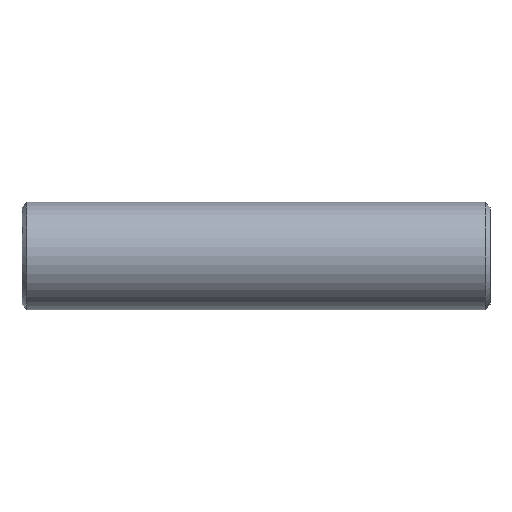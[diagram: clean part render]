
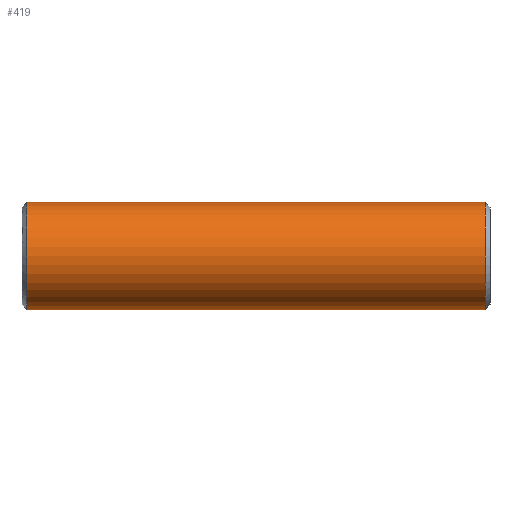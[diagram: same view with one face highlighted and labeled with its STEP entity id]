
A CAD part, front view. The second image highlights one B-rep face of the part: STEP entity #419.
In plain terms, the highlighted cylindrical face has radius 11 mm (diameter 22 mm), a partial arc.
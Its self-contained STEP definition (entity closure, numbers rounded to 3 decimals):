
#231=CARTESIAN_POINT('Vertex',(1.,0.,-11.)) ;
#238=CARTESIAN_POINT('Vertex',(1.,0.,11.)) ;
#267=CARTESIAN_POINT('Axis2P3D Location',(1.,0.,0.)) ;
#271=CARTESIAN_POINT('Vertex',(1.,-11.,0.)) ;
#274=CARTESIAN_POINT('Axis2P3D Location',(1.,0.,0.)) ;
#359=CARTESIAN_POINT('Line Origine',(96.,0.,11.)) ;
#363=CARTESIAN_POINT('Vertex',(95.,0.,11.)) ;
#377=CARTESIAN_POINT('Vertex',(95.,0.,-11.)) ;
#380=CARTESIAN_POINT('Line Origine',(96.,0.,-11.)) ;
#394=CARTESIAN_POINT('Axis2P3D Location',(96.,0.,0.)) ;
#399=CARTESIAN_POINT('Axis2P3D Location',(95.,0.,0.)) ;
#403=CARTESIAN_POINT('Vertex',(95.,-11.,0.)) ;
#406=CARTESIAN_POINT('Axis2P3D Location',(95.,0.,0.)) ;
#268=DIRECTION('Axis2P3D Direction',(1.,0.,-0.)) ;
#275=DIRECTION('Axis2P3D Direction',(1.,0.,-0.)) ;
#360=DIRECTION('Vector Direction',(-1.,0.,0.)) ;
#381=DIRECTION('Vector Direction',(-1.,0.,0.)) ;
#395=DIRECTION('Axis2P3D Direction',(-1.,-0.,-0.)) ;
#396=DIRECTION('Axis2P3D XDirection',(0.,0.,-1.)) ;
#400=DIRECTION('Axis2P3D Direction',(-1.,-0.,-0.)) ;
#407=DIRECTION('Axis2P3D Direction',(-1.,-0.,-0.)) ;
#269=AXIS2_PLACEMENT_3D('Circle Axis2P3D',#267,#268,$) ;
#276=AXIS2_PLACEMENT_3D('Circle Axis2P3D',#274,#275,$) ;
#397=AXIS2_PLACEMENT_3D('Cylinder Axis2P3D',#394,#395,#396) ;
#401=AXIS2_PLACEMENT_3D('Circle Axis2P3D',#399,#400,$) ;
#408=AXIS2_PLACEMENT_3D('Circle Axis2P3D',#406,#407,$) ;
#412=ORIENTED_EDGE('',*,*,#384,.T.) ;
#413=ORIENTED_EDGE('',*,*,#405,.F.) ;
#414=ORIENTED_EDGE('',*,*,#410,.F.) ;
#415=ORIENTED_EDGE('',*,*,#365,.T.) ;
#416=ORIENTED_EDGE('',*,*,#278,.T.) ;
#417=ORIENTED_EDGE('',*,*,#273,.T.) ;
#361=VECTOR('Line Direction',#360,1.) ;
#382=VECTOR('Line Direction',#381,1.) ;
#419=ADVANCED_FACE('352-16X96',(#418),#398,.T.) ;
#270=CIRCLE('generated circle',#269,11.) ;
#277=CIRCLE('generated circle',#276,11.) ;
#402=CIRCLE('generated circle',#401,11.) ;
#409=CIRCLE('generated circle',#408,11.) ;
#398=CYLINDRICAL_SURFACE('generated cylinder',#397,11.) ;
#273=EDGE_CURVE('',#272,#232,#270,.T.) ;
#278=EDGE_CURVE('',#239,#272,#277,.T.) ;
#365=EDGE_CURVE('',#364,#239,#362,.T.) ;
#384=EDGE_CURVE('',#232,#378,#383,.F.) ;
#405=EDGE_CURVE('',#404,#378,#402,.F.) ;
#410=EDGE_CURVE('',#364,#404,#409,.F.) ;
#411=EDGE_LOOP('',(#412,#413,#414,#415,#416,#417)) ;
#418=FACE_OUTER_BOUND('',#411,.T.) ;
#362=LINE('Line',#359,#361) ;
#383=LINE('Line',#380,#382) ;
#232=VERTEX_POINT('',#231) ;
#239=VERTEX_POINT('',#238) ;
#272=VERTEX_POINT('',#271) ;
#364=VERTEX_POINT('',#363) ;
#378=VERTEX_POINT('',#377) ;
#404=VERTEX_POINT('',#403) ;
